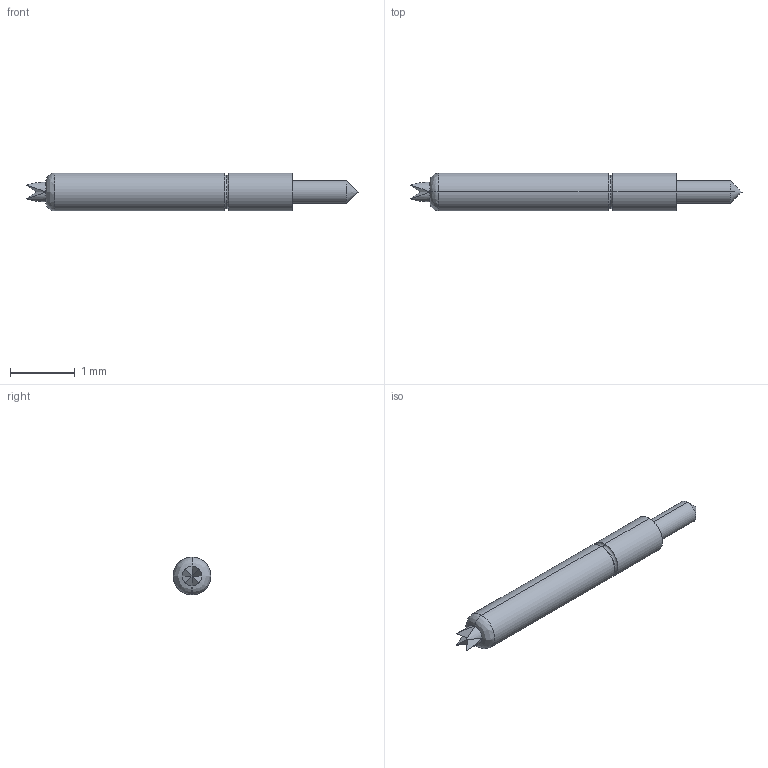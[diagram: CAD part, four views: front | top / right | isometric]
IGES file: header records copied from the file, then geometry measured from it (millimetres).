
Start section: SolidWorks IGES file using analytic representation for surfaces
Global section: file name: Z:\probe solid model mockups\Solidworks models\IGES Files\CSP8-15 IGES files\CSP8-15BL Full.IGS; native system: SolidWorks 2006 by SolidWorks Corporation; preprocessor: SolidWorks 2006 by SolidWorks Corporation; author: tsakatani; date: 080108.152113; units: inch
Bounding box: 5.13 x 0.58 x 0.58 mm (x, y, z)
Surface area: 8.7 mm2 (no closed solid volume)
Topology: 0 solids, 0 shells, 32 faces, 172 edges, 170 vertices
Faces by surface type: revolution 17, bspline 15
